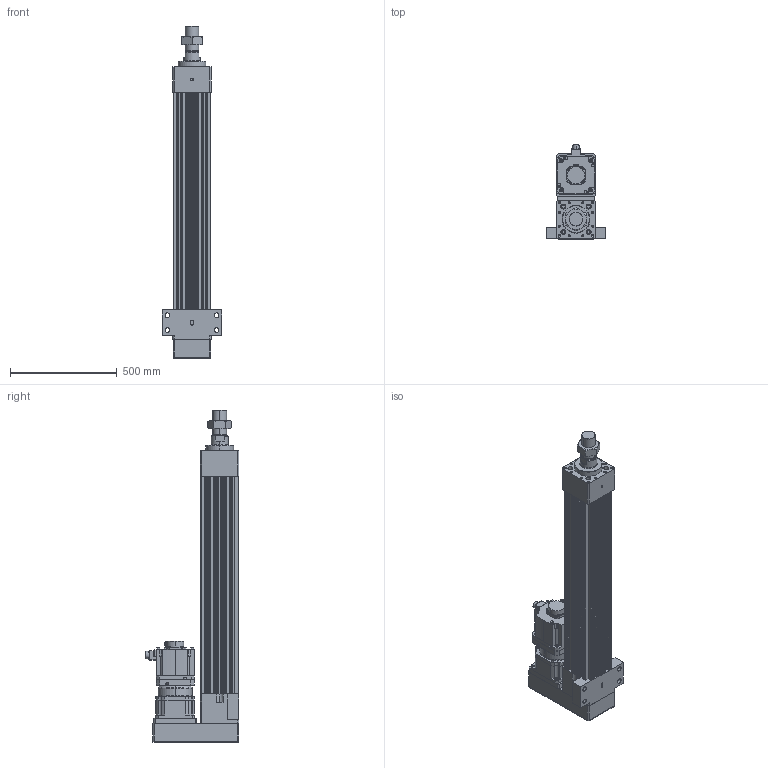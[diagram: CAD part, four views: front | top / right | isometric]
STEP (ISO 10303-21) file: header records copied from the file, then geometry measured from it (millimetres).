
FILE_DESCRIPTION (( 'STEP AP203' ), '1' );
FILE_NAME ('HES180HS-P700-W050G00-M-FFC.STEP', '2023-02-01T07:31:59', ( 'tms' ), ( '' ), 'SwSTEP 2.0', 'SolidWorks 2013', '' );
FILE_SCHEMA (( 'CONFIG_CONTROL_DESIGN' ));
Length unit declared in the file: millimetre
Products named in the file (9): HES180 ROD M ST700; P1301600001; HES180HS-P700-W050G00-M-FFC; P0403600401; AB180-003[HG-SR702B]; M64X2.0P; AB1801; HES180-P700-G180-FFC; HG-SR502
Assembly tree (8 placements, depth 3):
  HES180HS-P700-W050G00-M-FFC
    HES180-P700-G180-FFC
    HES180 ROD M ST700
    M64X2.0P
    AB180-003[HG-SR702B]
      AB1801
      P1301600001
      P0403600401
    HG-SR502
Bounding box: 280 x 438.85 x 1552 mm (x, y, z)
Volume: 32767633.6 mm3; surface area: 2944258.8 mm2
Topology: 4 solids, 19 shells, 1474 faces, 3821 edges, 2463 vertices
Faces by surface type: cylinder 686, plane 553, cone 168, bspline 63, torus 4
Entity records: 53682 total; most frequent: CARTESIAN_POINT 16162, DIRECTION 7905, ORIENTED_EDGE 7498, EDGE_CURVE 3773, AXIS2_PLACEMENT_3D 2986, VERTEX_POINT 2463, VECTOR 1933, LINE 1933
